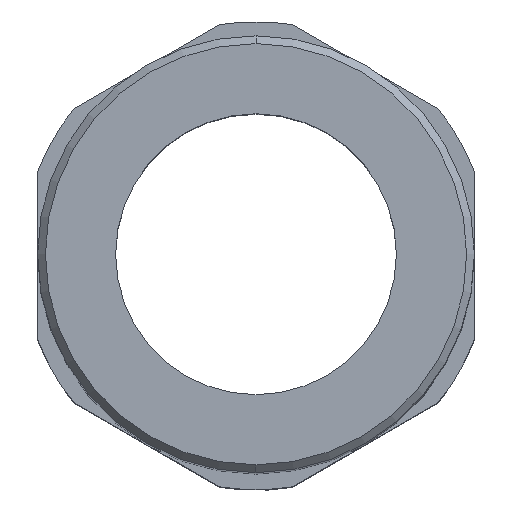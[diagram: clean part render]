
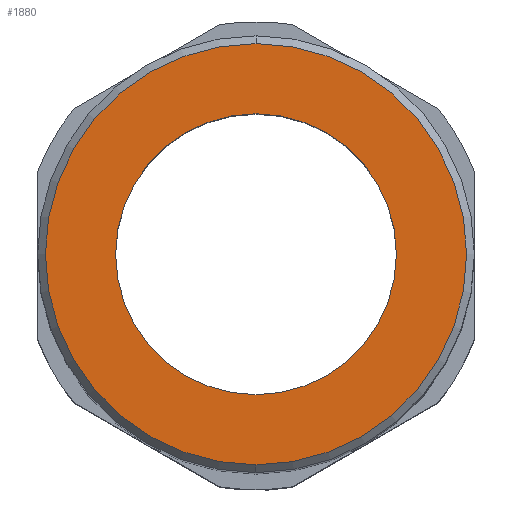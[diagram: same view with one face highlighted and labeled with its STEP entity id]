
A CAD part, top view. The second image highlights one B-rep face of the part: STEP entity #1880.
In plain terms, the highlighted planar face has unit normal (0, 0, 1).
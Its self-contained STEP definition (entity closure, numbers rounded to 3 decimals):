
#49=CARTESIAN_POINT('',(0.,0.,60.));
#50=DIRECTION('',(0.,0.,-1.));
#51=DIRECTION('',(0.,1.,0.));
#52=AXIS2_PLACEMENT_3D('',#49,#50,#51);
#823=CARTESIAN_POINT('',(0.,0.,60.));
#824=DIRECTION('',(0.,0.,-1.));
#825=DIRECTION('',(0.,1.,0.));
#826=AXIS2_PLACEMENT_3D('',#823,#824,#825);
#854=CARTESIAN_POINT('',(0.,0.,60.));
#855=DIRECTION('',(0.,0.,1.));
#856=DIRECTION('',(0.,1.,0.));
#857=AXIS2_PLACEMENT_3D('',#854,#855,#856);
#869=CARTESIAN_POINT('',(0.,0.,60.));
#870=DIRECTION('',(0.,0.,1.));
#871=DIRECTION('',(0.,1.,0.));
#872=AXIS2_PLACEMENT_3D('',#869,#870,#871);
#1019=CARTESIAN_POINT('',(0.,9.,60.));
#1020=CARTESIAN_POINT('',(0.,-9.,60.));
#1021=VERTEX_POINT('',#1019);
#1022=VERTEX_POINT('',#1020);
#1135=CARTESIAN_POINT('',(0.,13.5,60.));
#1136=CARTESIAN_POINT('',(0.,-13.5,60.));
#1137=VERTEX_POINT('',#1135);
#1138=VERTEX_POINT('',#1136);
#1865=CARTESIAN_POINT('',(0.,0.,60.));
#1866=DIRECTION('',(0.,0.,-1.));
#1867=DIRECTION('',(0.,-1.,0.));
#1868=AXIS2_PLACEMENT_3D('',#1865,#1866,#1867);
#1869=PLANE('',#1868);
#1871=ORIENTED_EDGE('',*,*,#1870,.F.);
#1872=ORIENTED_EDGE('',*,*,#1855,.T.);
#1873=EDGE_LOOP('',(#1871,#1872));
#1874=FACE_OUTER_BOUND('',#1873,.F.);
#1875=ORIENTED_EDGE('',*,*,#1188,.F.);
#1877=ORIENTED_EDGE('',*,*,#1876,.T.);
#1878=EDGE_LOOP('',(#1875,#1877));
#1879=FACE_BOUND('',#1878,.F.);
#1880=ADVANCED_FACE('',(#1874,#1879),#1869,.F.);
#53=CIRCLE('',#52,9.);
#827=CIRCLE('',#826,13.5);
#858=CIRCLE('',#857,9.);
#873=CIRCLE('',#872,13.5);
#1188=EDGE_CURVE('',#1021,#1022,#53,.T.);
#1855=EDGE_CURVE('',#1137,#1138,#827,.T.);
#1870=EDGE_CURVE('',#1137,#1138,#873,.T.);
#1876=EDGE_CURVE('',#1021,#1022,#858,.T.);
